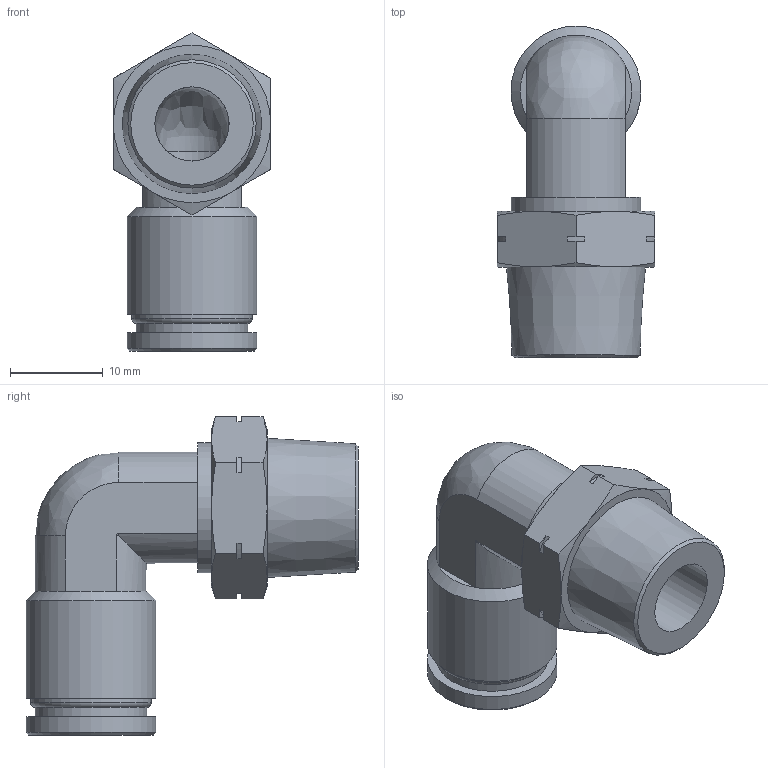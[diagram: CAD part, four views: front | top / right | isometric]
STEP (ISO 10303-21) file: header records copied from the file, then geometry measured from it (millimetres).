
FILE_DESCRIPTION(/* description */ (''),/* implementation_level */ '2;1');
FILE_NAME(/* name */ 'LXH21 0010 N3.stp',/* time_stamp */ '2026-05-01T13:15:17+02:00',/* author */ ('freju'),/* organization */ (''),/* preprocessor_version */ 'ST-DEVELOPER v20.1',/* originating_system */ 'Autodesk Inventor 2026',/* authorisation */ '');
FILE_SCHEMA (('AUTOMOTIVE_DESIGN { 1 0 10303 214 3 1 1 }'));
Length unit declared in the file: millimetre
Products named in the file (1): LXH21 0010 N3
Bounding box: 17 x 35.8 x 34.31 mm (x, y, z)
Volume: 4558 mm3; surface area: 4145 mm2
Topology: 1 solids, 1 shells, 69 faces, 170 edges, 105 vertices
Faces by surface type: plane 30, cylinder 18, cone 16, bspline 4, torus 1
Full cylindrical faces by diameter (mm): 8 x2, 10 x1, 12 x1, 13 x1, 14 x3
Entity records: 2077 total; most frequent: CARTESIAN_POINT 445, DIRECTION 344, ORIENTED_EDGE 332, EDGE_CURVE 166, AXIS2_PLACEMENT_3D 136, VERTEX_POINT 105, EDGE_LOOP 77, LINE 72
